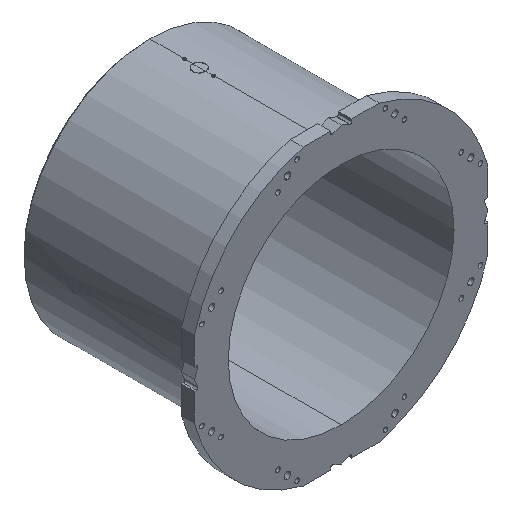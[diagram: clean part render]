
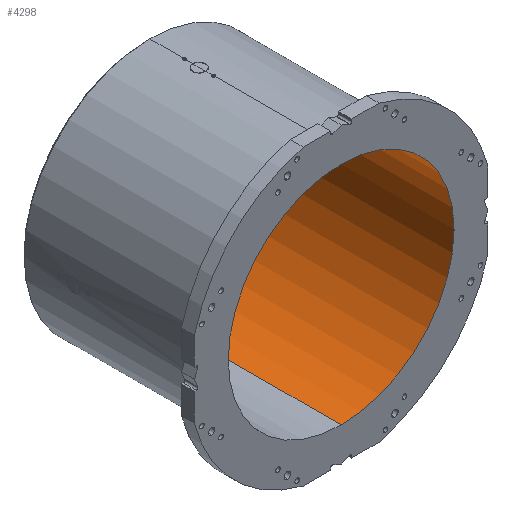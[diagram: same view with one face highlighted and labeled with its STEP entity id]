
A CAD part, isometric view. The second image highlights one B-rep face of the part: STEP entity #4298.
In plain terms, the highlighted cylindrical face has radius 350 mm (diameter 700 mm), a partial arc.
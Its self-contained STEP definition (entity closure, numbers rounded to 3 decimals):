
#24 = DIRECTION ( 'NONE',  ( 0., 1., 0. ) ) ;
#265 = VERTEX_POINT ( 'NONE', #9401 ) ;
#574 = VERTEX_POINT ( 'NONE', #6362 ) ;
#602 = CARTESIAN_POINT ( 'NONE',  ( 0., 0., 0. ) ) ;
#1124 = EDGE_CURVE ( 'NONE', #4050, #10890, #11254, .T. ) ;
#1690 = VECTOR ( 'NONE', #10206, 1000. ) ;
#2014 = DIRECTION ( 'NONE',  ( 0., 0., 1. ) ) ;
#2769 = EDGE_CURVE ( 'NONE', #265, #574, #4284, .T. ) ;
#2798 = DIRECTION ( 'NONE',  ( 0., 0., 1. ) ) ;
#3350 = VECTOR ( 'NONE', #8400, 1000. ) ;
#3470 = ORIENTED_EDGE ( 'NONE', *, *, #2769, .F. ) ;
#3579 = DIRECTION ( 'NONE',  ( 0., 1., 0. ) ) ;
#4050 = VERTEX_POINT ( 'NONE', #10556 ) ;
#4103 = ORIENTED_EDGE ( 'NONE', *, *, #1124, .T. ) ;
#4199 = AXIS2_PLACEMENT_3D ( 'NONE', #4731, #24, #2798 ) ;
#4284 = LINE ( 'NONE', #8262, #1690 ) ;
#4294 = EDGE_LOOP ( 'NONE', ( #3470, #11845, #4103, #5538 ) ) ;
#4298 = ADVANCED_FACE ( 'NONE', ( #4797 ), #11818, .F. ) ;
#4731 = CARTESIAN_POINT ( 'NONE',  ( 0., 0., 0. ) ) ;
#4797 = FACE_OUTER_BOUND ( 'NONE', #4294, .T. ) ;
#4926 = DIRECTION ( 'NONE',  ( 0., 1., 0. ) ) ;
#5335 = CARTESIAN_POINT ( 'NONE',  ( 0., 563., 350. ) ) ;
#5538 = ORIENTED_EDGE ( 'NONE', *, *, #11197, .T. ) ;
#6362 = CARTESIAN_POINT ( 'NONE',  ( 0., 563., -350. ) ) ;
#7181 = CIRCLE ( 'NONE', #8219, 350. ) ;
#7553 = DIRECTION ( 'NONE',  ( 0., 0., 1. ) ) ;
#7952 = EDGE_CURVE ( 'NONE', #4050, #265, #7181, .T. ) ;
#8219 = AXIS2_PLACEMENT_3D ( 'NONE', #602, #3579, #7553 ) ;
#8262 = CARTESIAN_POINT ( 'NONE',  ( 0., 0., -350. ) ) ;
#8331 = CARTESIAN_POINT ( 'NONE',  ( 0., 0., 350. ) ) ;
#8400 = DIRECTION ( 'NONE',  ( 0., 1., 0. ) ) ;
#9085 = AXIS2_PLACEMENT_3D ( 'NONE', #10716, #4926, #2014 ) ;
#9401 = CARTESIAN_POINT ( 'NONE',  ( 0., 0., -350. ) ) ;
#10206 = DIRECTION ( 'NONE',  ( 0., 1., 0. ) ) ;
#10556 = CARTESIAN_POINT ( 'NONE',  ( 0., 0., 350. ) ) ;
#10716 = CARTESIAN_POINT ( 'NONE',  ( 0., 563., 0. ) ) ;
#10890 = VERTEX_POINT ( 'NONE', #5335 ) ;
#11197 = EDGE_CURVE ( 'NONE', #10890, #574, #11749, .T. ) ;
#11254 = LINE ( 'NONE', #8331, #3350 ) ;
#11749 = CIRCLE ( 'NONE', #9085, 350. ) ;
#11818 = CYLINDRICAL_SURFACE ( 'NONE', #4199, 350. ) ;
#11845 = ORIENTED_EDGE ( 'NONE', *, *, #7952, .F. ) ;
